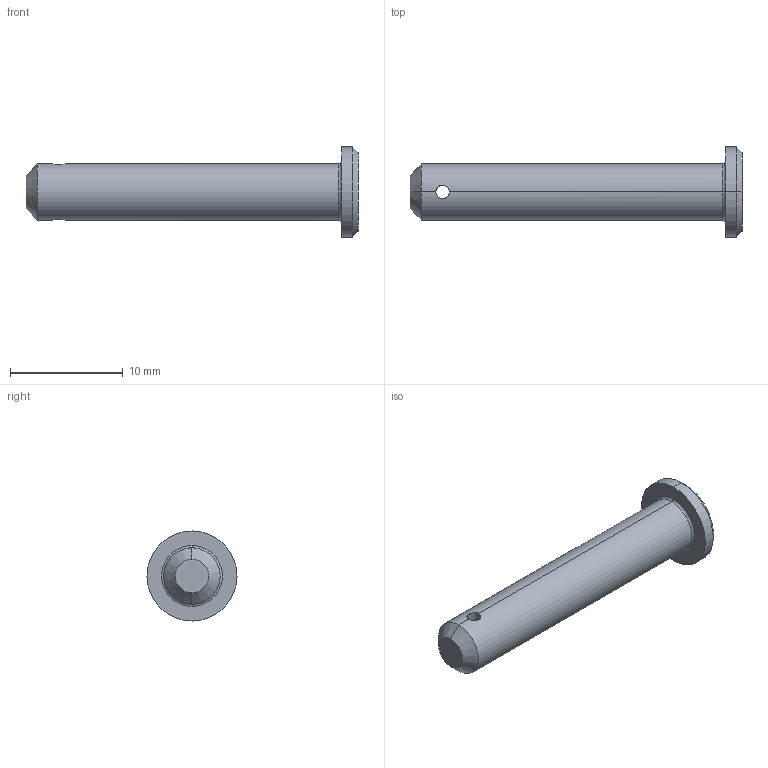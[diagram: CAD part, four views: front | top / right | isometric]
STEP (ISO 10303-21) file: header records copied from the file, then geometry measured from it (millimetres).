
FILE_DESCRIPTION (( 'STEP AP203' ), '1' );
FILE_NAME ('Wiberger-sms2360_5x28.step', '2012-10-09T08:57:58', ( 'Magnus' ), ( 'Wiberger' ), 'SwSTEP 2.0', 'SolidWorks 2011', '' );
FILE_SCHEMA (( 'CONFIG_CONTROL_DESIGN' ));
Length unit declared in the file: millimetre
Products named in the file (1): Wiberger-sms2360_5x28
Bounding box: 29.5 x 8 x 8 mm (x, y, z)
Volume: 609.9 mm3; surface area: 574.8 mm2
Topology: 1 solids, 1 shells, 15 faces, 32 edges, 18 vertices
Faces by surface type: cylinder 6, cone 4, plane 3, torus 2
Entity records: 511 total; most frequent: CARTESIAN_POINT 102, DIRECTION 76, ORIENTED_EDGE 64, EDGE_CURVE 32, AXIS2_PLACEMENT_3D 32, VERTEX_POINT 18, EDGE_LOOP 16, CIRCLE 16
